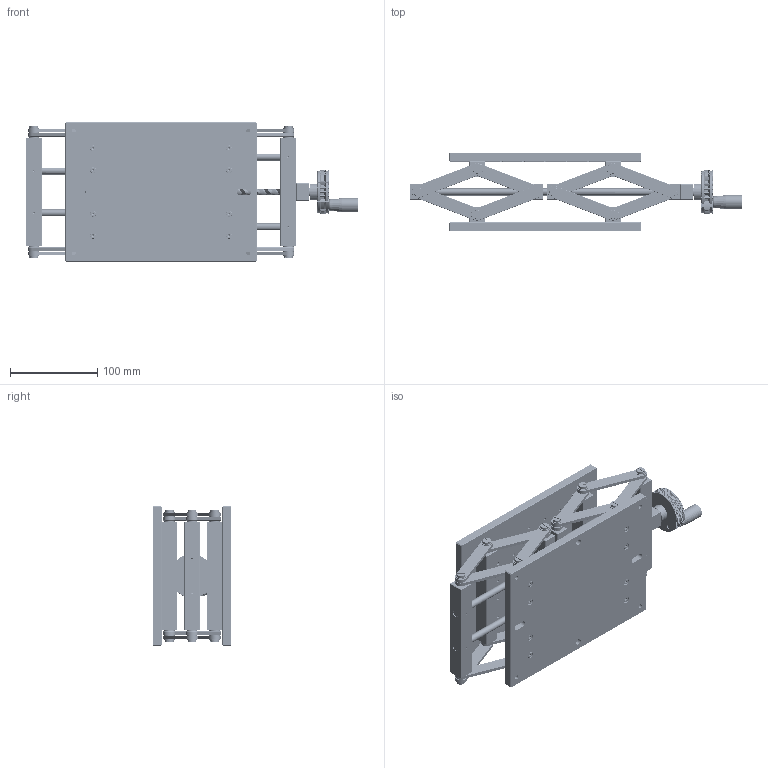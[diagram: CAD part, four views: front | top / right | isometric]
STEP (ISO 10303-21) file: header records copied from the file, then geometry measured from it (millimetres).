
FILE_DESCRIPTION (( 'STEP AP203' ), '1' );
FILE_NAME ('BLJZ1622.STEP', '2024-07-15T12:50:30', ( 'Windows User' ), ( 'P R C' ), 'SwSTEP 2.0', 'SolidWorks 2024', '' );
FILE_SCHEMA (( 'CONFIG_CONTROL_DESIGN' ));
Products named in the file (1): BLJZ1622
Bounding box: 381 x 90 x 160 mm (x, y, z)
Volume: 1154173.6 mm3; surface area: 360190.4 mm2
Topology: 143 solids, 143 shells, 6607 faces, 17776 edges, 11559 vertices
Faces by surface type: cone 2497, cylinder 2487, plane 1532, bspline 59, torus 32
Full cylindrical faces by diameter (mm): 1.5 x2, 2.5 x9, 3 x2, 3.3 x77, 3.4 x4, 3.5 x16, 4 x36, 4.5 x16, 5 x11, 5.3 x1, 6 x69, 6.02 x14, 6.5 x50, 7 x20, 8 x40, 8.5 x3, 9 x1, 10 x23, 11 x4, 11.5 x1, 11.6 x1, 12 x49, 12.5 x2, 13 x2, 14 x2, 14.5 x1, 15 x1, 16 x1, 19 x1
Entity records: 249466 total; most frequent: CARTESIAN_POINT 92764, ORIENTED_EDGE 33368, DIRECTION 30923, EDGE_CURVE 16684, AXIS2_PLACEMENT_3D 12274, VERTEX_POINT 11307, EDGE_LOOP 7881, FACE_OUTER_BOUND 7067
